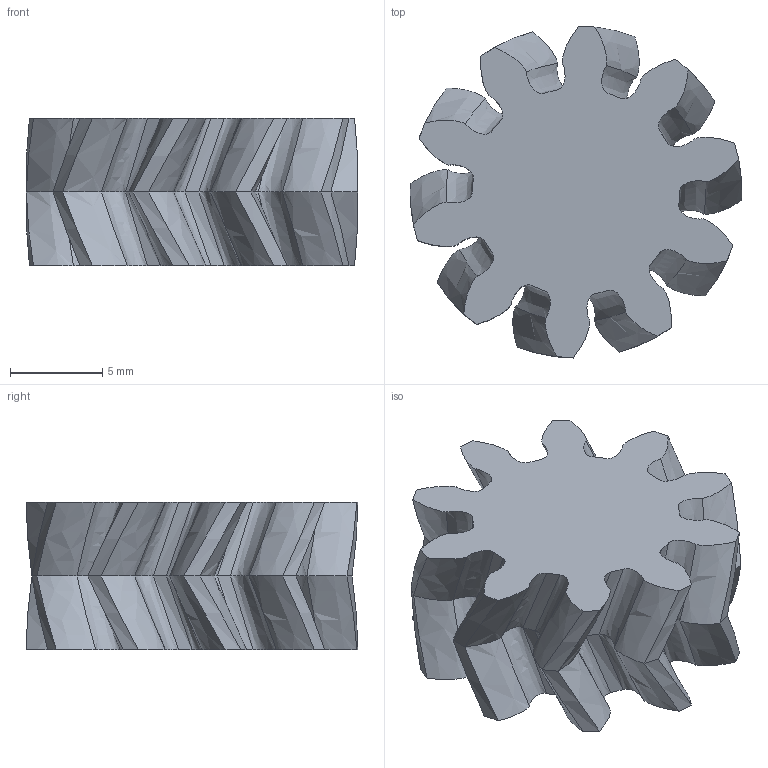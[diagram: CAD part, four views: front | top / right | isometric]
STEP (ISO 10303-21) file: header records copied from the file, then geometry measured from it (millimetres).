
FILE_DESCRIPTION(('FreeCAD Model'),'2;1');
FILE_NAME('C:/Users/germt/Documents/t-flex_models/колёса_130мм/Редуктор 6_2х_ступенчатый/Gear_M1.5_10T_shevron_25deg.step', '2021-04-26T20:03:53',('Author'),(''), 'Open CASCADE STEP processor 7.3','FreeCAD','Unknown');
FILE_SCHEMA(('AUTOMOTIVE_DESIGN { 1 0 10303 214 1 1 1 1 }'));
Length unit declared in the file: millimetre
Products named in the file (1): involutegear
Bounding box: 17.98 x 18 x 8 mm (x, y, z)
Volume: 1336.3 mm3; surface area: 1138 mm2
Topology: 1 solids, 1 shells, 122 faces, 300 edges, 180 vertices
Faces by surface type: bspline 122
Entity records: 11785 total; most frequent: CARTESIAN_POINT 7789, B_SPLINE_CURVE_WITH_KNOTS 900, ORIENTED_EDGE 600, PCURVE 600, DEFINITIONAL_REPRESENTATION 600, EDGE_CURVE 300, SURFACE_CURVE 300, VERTEX_POINT 180
